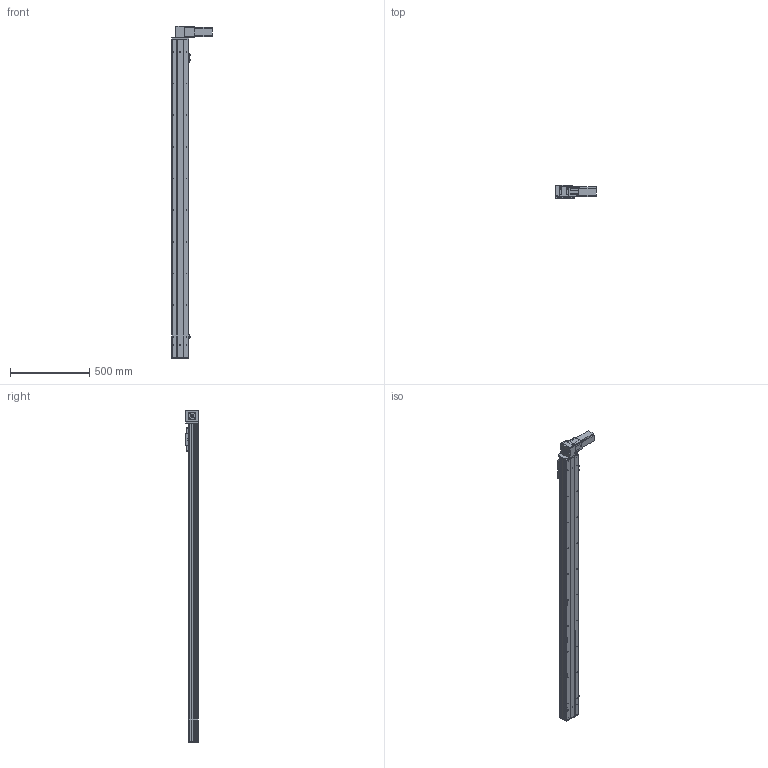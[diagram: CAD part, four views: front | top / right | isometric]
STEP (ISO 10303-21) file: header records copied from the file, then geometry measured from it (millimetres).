
FILE_DESCRIPTION (( 'STEP AP203' ), '1' );
FILE_NAME ('Y10CB-D90-S1750-BD-P400W.STEP', '2020-02-17T02:48:29', ( '微软用户' ), ( '微软中国' ), 'SwSTEP 2.0', 'SolidWorks 2017', '' );
FILE_SCHEMA (( 'CONFIG_CONTROL_DESIGN' ));
Length unit declared in the file: millimetre
Products named in the file (16): Y10CB- 掛极耜裔啣-毀---; Y10C---詩湍揤啣; 0CB-雄赽釱---; 10CB9-掛极; 0Cb-俋欶---; 10CB-耜裔; Y10B-々湍喘謫眊楊擘啣--; Y135C-陔俋离換覜結え-; san松下电机400不带刹车----; Y100-135俋离換覜ん--; 0B-源倛裔啣; Y10B--々湍喘謫眊--666; 0B-埴倛裔啣; 0B-薊粣ん眊; 10CB-詩湍-; Y10CB-D90-S1750-BD-P400W
Assembly tree (19 placements, depth 2):
  Y10CB-D90-S1750-BD-P400W
    0CB-雄赽釱---
    0Cb-俋欶---
    Y10B-々湍喘謫眊楊擘啣--
    san松下电机400不带刹车----
    0B-源倛裔啣
    0B-埴倛裔啣
    10CB-詩湍-
    Y10CB- 掛极耜裔啣-毀---  x2
    Y10C---詩湍揤啣  x2
    10CB9-掛极
    10CB-耜裔
    Y135C-陔俋离換覜結え-
    Y100-135俋离換覜ん--  x3
    Y10B--々湍喘謫眊--666
    0B-薊粣ん眊
Bounding box: 258 x 80.5 x 2096 mm (x, y, z)
Volume: 4444845.9 mm3; surface area: 2028192.5 mm2
Topology: 19 solids, 19 shells, 948 faces, 2542 edges, 1652 vertices
Faces by surface type: cylinder 480, plane 444, cone 24
Entity records: 29569 total; most frequent: CARTESIAN_POINT 5496, DIRECTION 4729, ORIENTED_EDGE 4554, EDGE_CURVE 2277, AXIS2_PLACEMENT_3D 1695, VERTEX_POINT 1478, LINE 1339, VECTOR 1339
